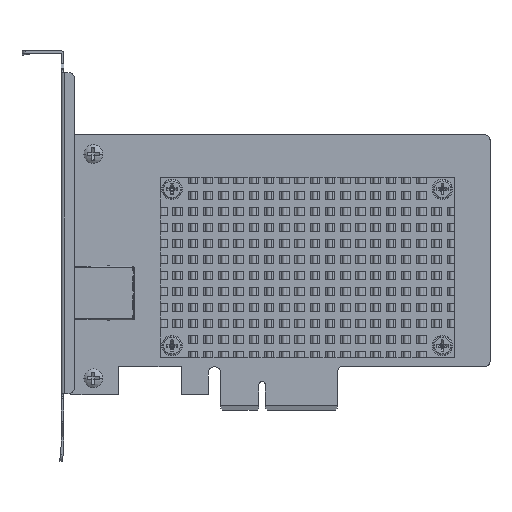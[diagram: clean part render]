
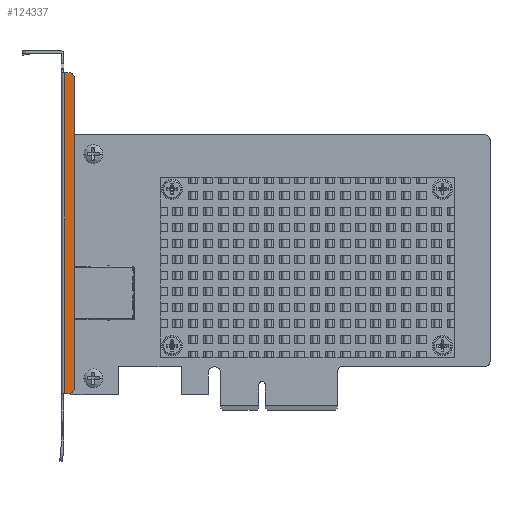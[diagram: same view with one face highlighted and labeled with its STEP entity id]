
A CAD part, top view. The second image highlights one B-rep face of the part: STEP entity #124337.
In plain terms, the highlighted planar face has unit normal (0, 0, 1).
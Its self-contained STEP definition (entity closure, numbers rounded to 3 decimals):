
#40900=DIRECTION('',(0.,-1.,0.));
#40901=VECTOR('',#40900,94.35);
#40902=CARTESIAN_POINT('',(-58.05,30.28,17.15));
#40903=LINE('',#40902,#40901);
#40915=DIRECTION('',(-1.,0.,0.));
#40916=VECTOR('',#40915,1.3);
#40917=CARTESIAN_POINT('',(-56.75,30.28,17.15));
#40918=LINE('',#40917,#40916);
#43841=CARTESIAN_POINT('',(-56.75,-62.57,17.15));
#43842=DIRECTION('',(0.,0.,-1.));
#43843=DIRECTION('',(1.,0.,0.));
#43844=AXIS2_PLACEMENT_3D('',#43841,#43842,#43843);
#43849=DIRECTION('',(-1.,0.,0.));
#43850=VECTOR('',#43849,1.3);
#43851=CARTESIAN_POINT('',(-56.75,-64.07,17.15));
#43852=LINE('',#43851,#43850);
#43856=CARTESIAN_POINT('',(-56.75,28.78,17.15));
#43857=DIRECTION('',(0.,0.,-1.));
#43858=DIRECTION('',(0.,1.,0.));
#43859=AXIS2_PLACEMENT_3D('',#43856,#43857,#43858);
#43878=DIRECTION('',(0.,1.,0.));
#43879=VECTOR('',#43878,91.35);
#43880=CARTESIAN_POINT('',(-55.25,-62.57,17.15));
#43881=LINE('',#43880,#43879);
#87984=CARTESIAN_POINT('',(-58.05,-64.07,17.15));
#87985=VERTEX_POINT('',#87984);
#87988=CARTESIAN_POINT('',(-58.05,30.28,17.15));
#87989=VERTEX_POINT('',#87988);
#88160=CARTESIAN_POINT('',(-55.25,-62.57,17.15));
#88161=CARTESIAN_POINT('',(-56.75,-64.07,17.15));
#88162=VERTEX_POINT('',#88160);
#88163=VERTEX_POINT('',#88161);
#88164=CARTESIAN_POINT('',(-56.75,30.28,17.15));
#88165=VERTEX_POINT('',#88164);
#88166=CARTESIAN_POINT('',(-55.25,28.78,17.15));
#88167=VERTEX_POINT('',#88166);
#124322=CARTESIAN_POINT('',(-58.05,30.28,17.15));
#124323=DIRECTION('',(0.,0.,-1.));
#124324=DIRECTION('',(1.,0.,0.));
#124325=AXIS2_PLACEMENT_3D('',#124322,#124323,#124324);
#124326=PLANE('',#124325);
#124327=ORIENTED_EDGE('',*,*,#124313,.T.);
#124328=ORIENTED_EDGE('',*,*,#121206,.T.);
#124329=ORIENTED_EDGE('',*,*,#121229,.F.);
#124330=ORIENTED_EDGE('',*,*,#121246,.F.);
#124332=ORIENTED_EDGE('',*,*,#124331,.T.);
#124334=ORIENTED_EDGE('',*,*,#124333,.F.);
#124335=EDGE_LOOP('',(#124327,#124328,#124329,#124330,#124332,#124334));
#124336=FACE_OUTER_BOUND('',#124335,.F.);
#124337=ADVANCED_FACE('',(#124336),#124326,.F.);
#43845=CIRCLE('',#43844,1.5);
#43860=CIRCLE('',#43859,1.5);
#121206=EDGE_CURVE('',#88163,#87985,#43852,.T.);
#121229=EDGE_CURVE('',#87989,#87985,#40903,.T.);
#121246=EDGE_CURVE('',#88165,#87989,#40918,.T.);
#124313=EDGE_CURVE('',#88162,#88163,#43845,.T.);
#124331=EDGE_CURVE('',#88165,#88167,#43860,.T.);
#124333=EDGE_CURVE('',#88162,#88167,#43881,.T.);
